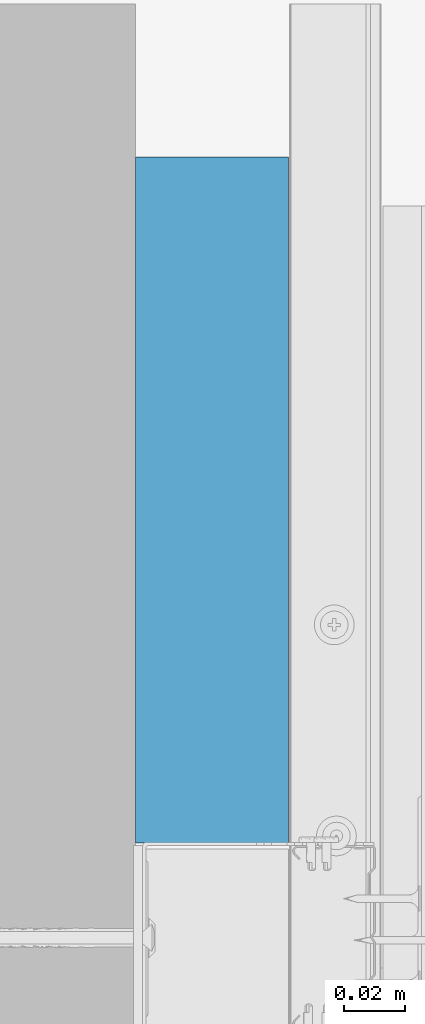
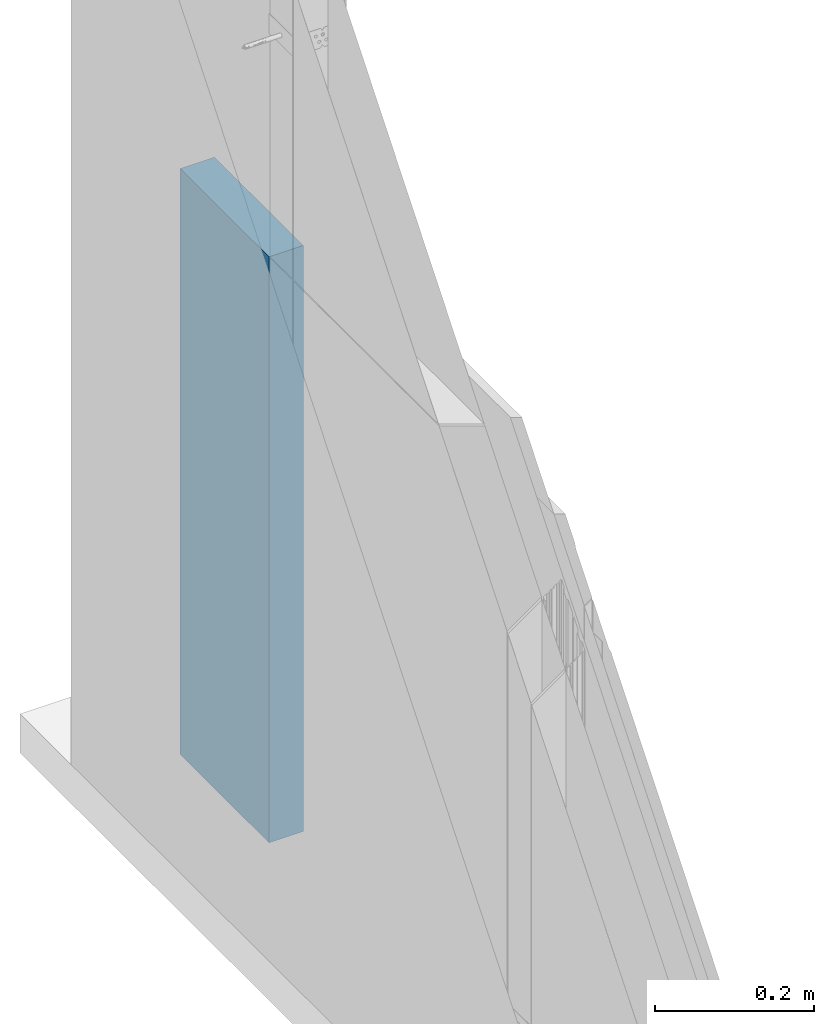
# One storey, part 10 of 67: 1 wall.
"""IFC2X3 building model written with IfcOpenShell, lengths in millimetres."""

import ifcopenshell
import ifcopenshell.guid

model = None  # the IFC model being written
_history = None  # IfcOwnerHistory: only IFC2X3 demands one
_inside = {}  # id of a spatial element -> (the spatial element, [elements in it])
_under = {}  # id of a project, library or spatial element -> (it, [spatial elements below it])
_declared = {}  # id of a project -> (the project, [libraries it declares])
_typed = {}  # id of a type object -> (the type object, [elements of that type])
_made_of = {}  # id of a material, layer set ... -> (it, [elements and type objects made of it])


def new_model(schema):
    """Start an empty IFC model of exactly this schema.

    Asked for "IFC4X3", IfcOpenShell would pick the latest addendum, in which some entities
    have other attributes; the version numbers below select the first issue.
    IFC2X3 requires an IfcOwnerHistory on every rooted entity: one is made here for all.
    """
    global model, _history
    if schema == "IFC4X3":
        model = ifcopenshell.file(schema_version=(4, 3, 0, 0))
    else:
        model = ifcopenshell.file(schema=schema)
    _inside.clear()
    _under.clear()
    _declared.clear()
    _typed.clear()
    _made_of.clear()
    _history = None
    if model.schema == "IFC2X3":
        org = make("IfcOrganization", Name="unknown")
        user = make(
            "IfcPersonAndOrganization",
            ThePerson=make("IfcPerson", FamilyName="unknown"),
            TheOrganization=org,
        )
        app = make(
            "IfcApplication",
            ApplicationDeveloper=org,
            Version="unknown",
            ApplicationFullName="unknown",
            ApplicationIdentifier="unknown",
        )
        _history = make(
            "IfcOwnerHistory",
            OwningUser=user,
            OwningApplication=app,
            ChangeAction="ADDED",
            CreationDate=0,
        )
    return model


def make(cls, **values):
    """One entity of the class cls with the attributes given. An attribute that is None is left unset."""
    return model.create_entity(
        cls, **{name: value for name, value in values.items() if value is not None}
    )


def rooted(cls, **values):
    """An entity with a GlobalId (a new one), such as an element, a storey or a relation."""
    return make(cls, GlobalId=ifcopenshell.guid.new(), OwnerHistory=_history, **values)


def si_unit(unit_type, name, prefix=None):
    """IfcSIUnit, for example si_unit("LENGTHUNIT", "METRE", prefix="MILLI")."""
    return make("IfcSIUnit", UnitType=unit_type, Prefix=prefix, Name=name)


def assignment(units):
    """IfcUnitAssignment: the units of a project."""
    return None if units is None else make("IfcUnitAssignment", Units=units)


def point(xyz):
    """IfcCartesianPoint."""
    return None if xyz is None else make("IfcCartesianPoint", Coordinates=xyz)


def direction(xyz):
    """IfcDirection."""
    return None if xyz is None else make("IfcDirection", DirectionRatios=xyz)


def frame(location, z_axis=None, x_axis=None):
    """IfcAxis2Placement3D, a coordinate frame: its origin and axes. An axis left out is left unset."""
    return make(
        "IfcAxis2Placement3D",
        Location=point(location),
        Axis=direction(z_axis),
        RefDirection=direction(x_axis),
    )


def origin_with_axes():
    """The frame at (0, 0, 0) with the z axis (0, 0, 1) and the x axis (1, 0, 0) written out."""
    return frame((0.0, 0.0, 0.0), z_axis=(0.0, 0.0, 1.0), x_axis=(1.0, 0.0, 0.0))


def place(relative_to, where):
    """IfcLocalPlacement: puts the frame where relative to a parent placement (None: the world)."""
    return make(
        "IfcLocalPlacement", PlacementRelTo=relative_to, RelativePlacement=where
    )


def context(
    kind, dimensions, precision=None, world=None, true_north=None, identifier=None
):
    """IfcGeometricRepresentationContext, for example the 3D "Model" context."""
    return make(
        "IfcGeometricRepresentationContext",
        ContextIdentifier=identifier,
        ContextType=kind,
        CoordinateSpaceDimension=dimensions,
        Precision=precision,
        WorldCoordinateSystem=world,
        TrueNorth=true_north,
    )


def subcontext(parent, identifier, kind, view, scale=None):
    """IfcGeometricRepresentationSubContext, for example "Body" below "Model"."""
    return make(
        "IfcGeometricRepresentationSubContext",
        ContextIdentifier=identifier,
        ContextType=kind,
        ParentContext=parent,
        TargetScale=scale,
        TargetView=view,
    )


def project(units=None, contexts=None):
    """IfcProject with its units and contexts."""
    return rooted(
        "IfcProject",
        Name="project",
        RepresentationContexts=contexts,
        UnitsInContext=assignment(units),
    )


def spatial(cls, under=None, at=None, **own):
    """A site, building, storey or space (cls), placed at a placement, below another one or the project."""
    s = rooted(cls, ObjectPlacement=at, **own)
    if under is not None:
        _under.setdefault(under.id(), (under, []))[1].append(s)
    return s


def faces_of(points, faces, orient=None, outer=None):
    """IfcFace entities. A face is a list of loops; a loop is a list of indices into points, from 0.

    orient and outer hold one flag for each loop. By default every Orientation is true, the
    first loop of a face is its IfcFaceOuterBound and the others are IfcFaceBound.
    """
    made = []
    for i, loops in enumerate(faces):
        bounds = []
        for j, loop in enumerate(loops):
            is_outer = j == 0 if outer is None else outer[i][j]
            bounds.append(
                make(
                    "IfcFaceOuterBound" if is_outer else "IfcFaceBound",
                    Bound=make("IfcPolyLoop", Polygon=[points[k] for k in loop]),
                    Orientation=True if orient is None else orient[i][j],
                )
            )
        made.append(make("IfcFace", Bounds=bounds))
    return made


def faceted_brep(points, faces, orient=None, outer=None, voids=None):
    """IfcFacetedBrep: a solid bounded by flat faces; with voids (closed shells), ...WithVoids."""
    shared = [point(p) for p in points]
    hull = make("IfcClosedShell", CfsFaces=faces_of(shared, faces, orient, outer))
    if voids is None:
        return make("IfcFacetedBrep", Outer=hull)
    return make(
        "IfcFacetedBrepWithVoids",
        Outer=hull,
        Voids=[
            make(cls, CfsFaces=faces_of(shared, fs, o, b)) for cls, fs, o, b in voids
        ],
    )


def shape(context_of_items, identifier, shape_type, items):
    """IfcShapeRepresentation: the items that make up one representation, for example the "Body"."""
    return make(
        "IfcShapeRepresentation",
        ContextOfItems=context_of_items,
        RepresentationIdentifier=identifier,
        RepresentationType=shape_type,
        Items=items,
    )


def material(Name=None, Category=None):
    """IfcMaterial."""
    return make("IfcMaterial", Name=Name, Category=Category)


def made_of(thing, what):
    """Note that an element or type object is made of a material, layer set ...; save() writes the relation."""
    if what is not None:
        _made_of.setdefault(what.id(), (what, []))[1].append(thing)
    return thing


def type_object(cls, material=None, **own):
    """A type object (cls), such as IfcWallType, which elements share."""
    return made_of(rooted(cls, **own), material)


def element(
    cls,
    number,
    at=None,
    inside=None,
    cuts=None,
    type_object=None,
    material=None,
    context=None,
    identifier="Body",
    shape_type=None,
    held_by="IfcProductDefinitionShape",
    body=None,
    shapes=None,
    **own,
):
    """One element of the class cls, such as IfcWall. Its Tag is "e" and its number.

    at: its placement. inside: the storey or other place that contains it. cuts: it is an
    opening in that element (IfcRelVoidsElement). A single representation is given by context,
    identifier, shape_type and body (its items); several are given by shapes. held_by: the class
    of the entity that holds the representations. save() writes the other relations.
    """
    e = rooted(cls, Tag="e%d" % number, ObjectPlacement=at, **own)
    if body is not None:
        shapes = [shape(context, identifier, shape_type, body)]
    if shapes is not None:
        e.Representation = make(held_by, Representations=shapes)
    if inside is not None:
        _inside.setdefault(inside.id(), (inside, []))[1].append(e)
    if cuts is not None:
        rooted(
            "IfcRelVoidsElement", RelatingBuildingElement=cuts, RelatedOpeningElement=e
        )
    if type_object is not None:
        _typed.setdefault(type_object.id(), (type_object, []))[1].append(e)
    return made_of(e, material)


def aggregate(whole, parts):
    """IfcRelAggregates: a whole, such as a stair, and the parts it consists of."""
    return rooted("IfcRelAggregates", RelatingObject=whole, RelatedObjects=parts)


def save(model, path):
    """Write the relations noted so far, then the file.

    IfcRelAggregates (storeys below a building ...), IfcRelContainedInSpatialStructure (elements
    in a storey), IfcRelDefinesByType, IfcRelAssociatesMaterial and IfcRelDeclares: one each for
    every whole, place, type object, material and project.
    """
    for whole, parts in _under.values():
        aggregate(whole, parts)
    for where, things in _inside.values():
        rooted(
            "IfcRelContainedInSpatialStructure",
            RelatedElements=things,
            RelatingStructure=where,
        )
    for kind, things in _typed.values():
        rooted("IfcRelDefinesByType", RelatedObjects=things, RelatingType=kind)
    for what, things in _made_of.values():
        rooted("IfcRelAssociatesMaterial", RelatedObjects=things, RelatingMaterial=what)
    for by, libraries in _declared.values():
        rooted("IfcRelDeclares", RelatingContext=by, RelatedDefinitions=libraries)
    model.write(path)


model = new_model("IFC2X3")

# Units and contexts
model_context = context("Model", 3, world=origin_with_axes())
body_context = subcontext(model_context, "Body", "Model", "MODEL_VIEW")
ifc_project = project(units=[si_unit("LENGTHUNIT", "METRE", prefix="MILLI"), si_unit("AREAUNIT", "SQUARE_METRE"), si_unit("VOLUMEUNIT", "CUBIC_METRE")], contexts=[model_context])

# Site, building, storey
site_placement = place(None, frame((2152.14102611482, 674.9749105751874, 57.61556563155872), z_axis=(0.0, 0.0, 1.0), x_axis=(-1.1102230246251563e-16, 1.0, 0.0)))
site = spatial("IfcSite", under=ifc_project, at=site_placement, Name="Default Site", CompositionType="ELEMENT")
building_placement = place(site_placement, origin_with_axes())
building = spatial("IfcBuilding", under=site, at=building_placement, Name="Default Building", CompositionType="ELEMENT")
storey_placement = place(building_placement, origin_with_axes())
storey = spatial("IfcBuildingStorey", under=building, at=storey_placement, Name="Default Building Storey", CompositionType="ELEMENT", Elevation=57.61556563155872)

# Wall
ifc_material = material(Name="Undefined")
wall_type = type_object("IfcWallType", Name="Wypełnienie z wełny mineralnej szklanej ISOVER#6", PredefinedType="NOTDEFINED")
wall_placement = place(storey_placement, frame((3288.4720203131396, 5350.424146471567, -7.900000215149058), z_axis=(0.0, 0.0, 1.0), x_axis=(-1.0, 4.718447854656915e-16, 0.0)))
element("IfcWall", 1, at=wall_placement, inside=storey, type_object=wall_type, material=ifc_material, Name="Wypełnienie z wełny mineralnej szklanej ISOVER", context=body_context, shape_type="Brep", body=[
    faceted_brep([(-180.46054244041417, 3328.283263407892, 10.284026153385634), (-180.46054244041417, 3378.283262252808, 10.284026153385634), (-180.46054244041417, 3378.283262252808, 911.543607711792), (-180.46054244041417, 3328.283263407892, 911.543607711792), (-404.5686125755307, 3378.283262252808, 911.543607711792), (-404.5686125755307, 3378.283262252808, 10.284026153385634), (-404.5686125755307, 3328.283263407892, 10.284026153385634), (-404.5686125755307, 3328.283263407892, 911.543607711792)], [[[0, 1, 2, 3]], [[4, 2, 1, 5]], [[5, 1, 0, 6]], [[6, 0, 3, 7]]]),
    faceted_brep([(-404.5686125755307, 3328.283263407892, 911.543607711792), (-404.5686125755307, 3378.283262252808, 911.543607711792), (-404.5686125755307, 3378.283262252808, 10.284026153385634), (-404.5686125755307, 3328.283263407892, 10.284026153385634), (-180.46054244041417, 3328.283263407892, 911.543607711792), (-180.46054244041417, 3378.283262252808, 911.543607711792)], [[[0, 1, 2, 3]], [[0, 4, 5, 1]]]),
])

save(model, "model.ifc")
